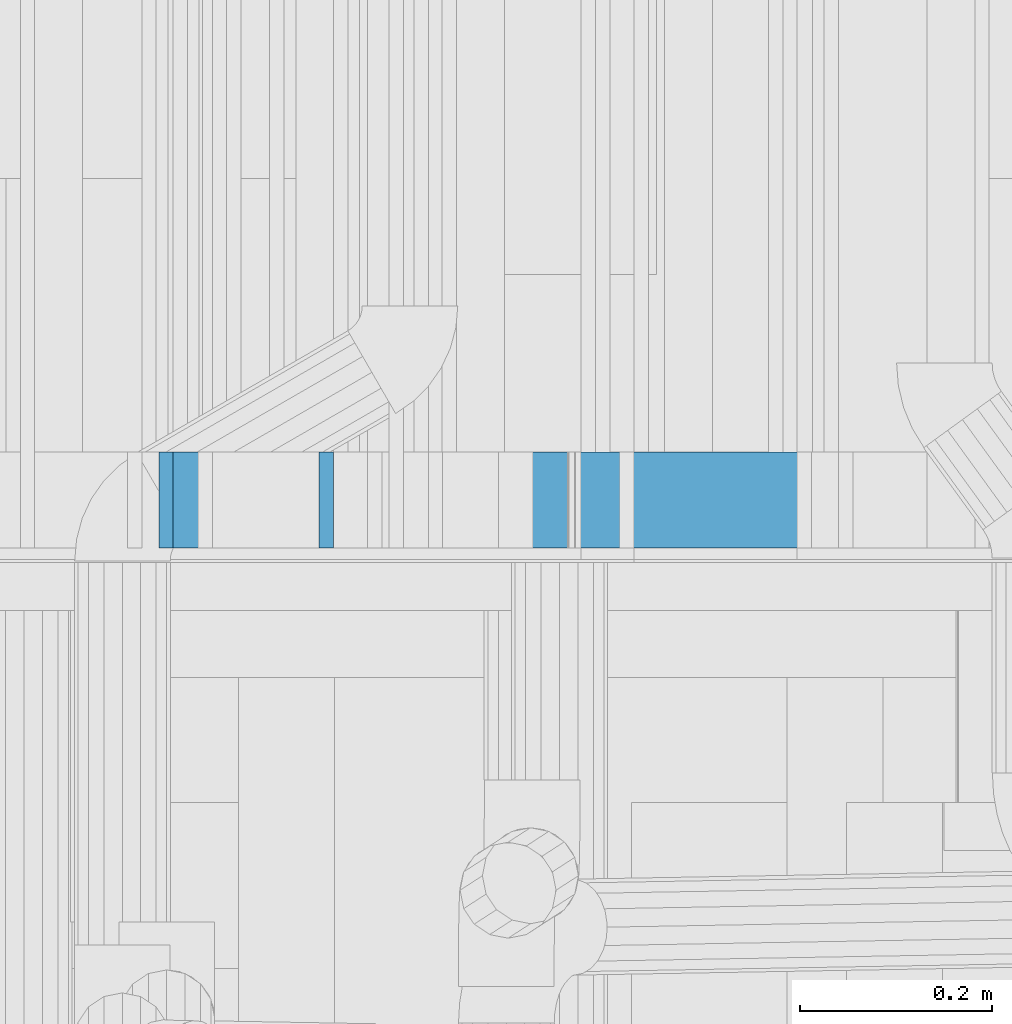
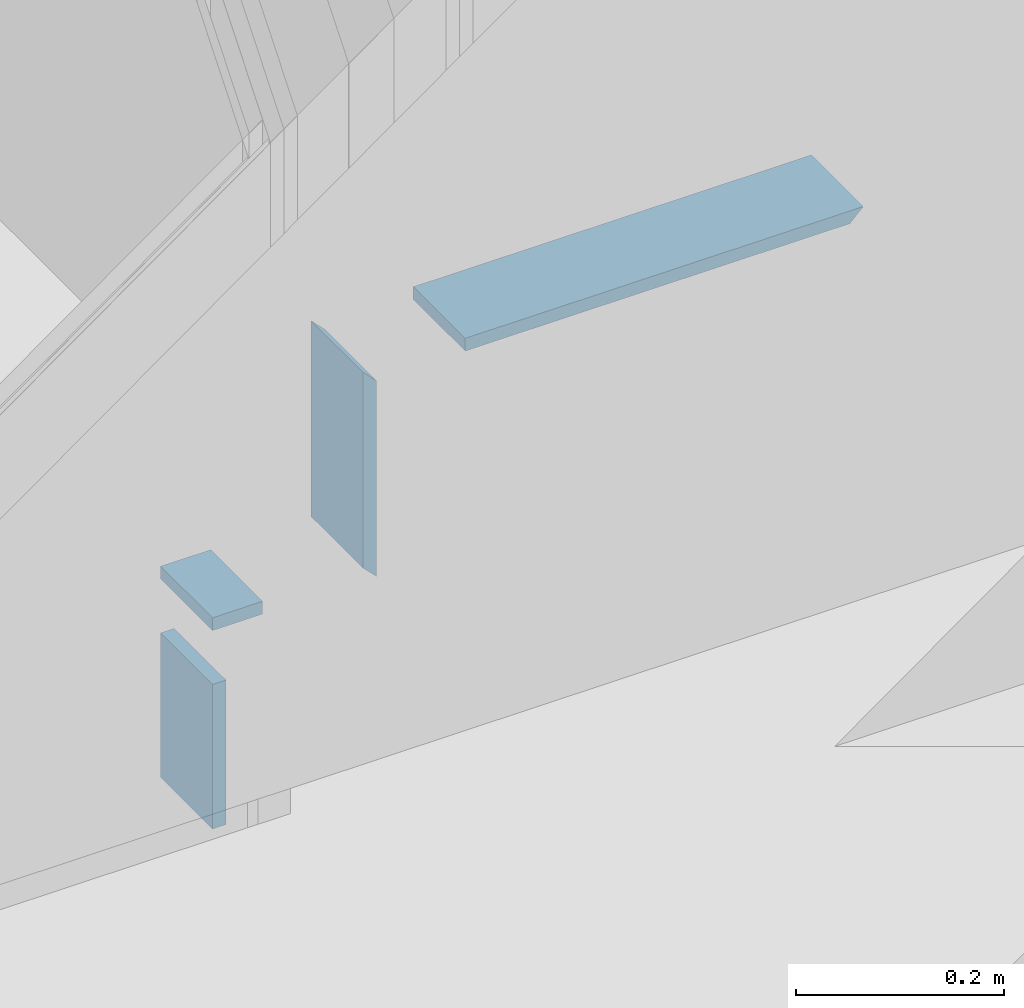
# One storey, part 185 of 583: 4 building element parts, 4 elements without a shape of their own.
"""IFC2X3 building model written with IfcOpenShell, lengths in metres."""

from ifc_helpers import new_model, entity, si_unit, converted_unit, derived_unit, money_unit, direction, frame, frame_2d, origin_with_axes, place, context, subcontext, project, spatial, polyline, rectangle, outline, extrude, material, type_object, element, aggregate, save


model = new_model("IFC2X3")

# Units and contexts
model_context = context("Model", 3, precision=1e-05, world=origin_with_axes(), true_north=direction((0.0, 1.0)))
body_context = subcontext(model_context, "Body", "Model", "MODEL_VIEW", scale=1.0)
ifc_project = project(units=[si_unit("LENGTHUNIT", "METRE"), si_unit("AREAUNIT", "SQUARE_METRE"), si_unit("VOLUMEUNIT", "CUBIC_METRE"), si_unit("ABSORBEDDOSEUNIT", "GRAY"), si_unit("AMOUNTOFSUBSTANCEUNIT", "MOLE"), si_unit("DOSEEQUIVALENTUNIT", "SIEVERT"), si_unit("ELECTRICCAPACITANCEUNIT", "FARAD"), si_unit("ELECTRICCHARGEUNIT", "COULOMB"), si_unit("ELECTRICCONDUCTANCEUNIT", "SIEMENS"), si_unit("ELECTRICCURRENTUNIT", "AMPERE"), si_unit("ELECTRICRESISTANCEUNIT", "OHM"), si_unit("ELECTRICVOLTAGEUNIT", "VOLT"), si_unit("ENERGYUNIT", "JOULE"), si_unit("FORCEUNIT", "NEWTON"), si_unit("FREQUENCYUNIT", "HERTZ"), si_unit("ILLUMINANCEUNIT", "LUX"), si_unit("INDUCTANCEUNIT", "HENRY"), si_unit("LUMINOUSFLUXUNIT", "LUMEN"), si_unit("LUMINOUSINTENSITYUNIT", "CANDELA"), si_unit("MAGNETICFLUXDENSITYUNIT", "TESLA"), si_unit("MAGNETICFLUXUNIT", "WEBER"), si_unit("MASSUNIT", "GRAM"), converted_unit("PLANEANGLEUNIT", "degree", entity("IfcReal", 0.0174532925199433), si_unit("PLANEANGLEUNIT", "RADIAN"), dimensions=[0, 0, 0, 0, 0, 0, 0]), si_unit("POWERUNIT", "WATT"), si_unit("PRESSUREUNIT", "PASCAL"), si_unit("RADIOACTIVITYUNIT", "BECQUEREL"), si_unit("SOLIDANGLEUNIT", "STERADIAN"), si_unit("THERMODYNAMICTEMPERATUREUNIT", "KELVIN"), si_unit("TIMEUNIT", "SECOND"), derived_unit("ACCELERATIONUNIT", [(si_unit("LENGTHUNIT", "METRE"), 1), (si_unit("TIMEUNIT", "SECOND"), -2)]), derived_unit("ANGULARVELOCITYUNIT", [(converted_unit("PLANEANGLEUNIT", "degree", entity("IfcReal", 0.0174532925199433), si_unit("PLANEANGLEUNIT", "RADIAN"), dimensions=[0, 0, 0, 0, 0, 0, 0]), 1), (si_unit("TIMEUNIT", "SECOND"), -1)]), derived_unit("CURVATUREUNIT", [(converted_unit("PLANEANGLEUNIT", "degree", entity("IfcReal", 0.0174532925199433), si_unit("PLANEANGLEUNIT", "RADIAN"), dimensions=[0, 0, 0, 0, 0, 0, 0]), 1), (si_unit("LENGTHUNIT", "METRE"), -1)]), derived_unit("DYNAMICVISCOSITYUNIT", [(si_unit("PRESSUREUNIT", "PASCAL"), 1), (si_unit("TIMEUNIT", "SECOND"), 1)]), derived_unit("HEATFLUXDENSITYUNIT", [(si_unit("POWERUNIT", "WATT"), 1), (si_unit("LENGTHUNIT", "METRE"), -2)]), derived_unit("HEATINGVALUEUNIT", [(si_unit("ENERGYUNIT", "JOULE"), 1), (si_unit("MASSUNIT", "GRAM"), -1)]), derived_unit("INTEGERCOUNTRATEUNIT", [(si_unit("TIMEUNIT", "SECOND"), -1)]), derived_unit("IONCONCENTRATIONUNIT", [(si_unit("MASSUNIT", "GRAM"), 1), (si_unit("VOLUMEUNIT", "CUBIC_METRE"), -1)]), derived_unit("ISOTHERMALMOISTURECAPACITYUNIT", [(si_unit("VOLUMEUNIT", "CUBIC_METRE"), 1), (si_unit("MASSUNIT", "GRAM"), -1)]), derived_unit("KINEMATICVISCOSITYUNIT", [(si_unit("AREAUNIT", "SQUARE_METRE"), 1), (si_unit("TIMEUNIT", "SECOND"), -1)]), derived_unit("LINEARFORCEUNIT", [(si_unit("FORCEUNIT", "NEWTON"), 1), (si_unit("LENGTHUNIT", "METRE"), -1)]), derived_unit("LINEARMOMENTUNIT", [(si_unit("FORCEUNIT", "NEWTON"), 1), (si_unit("LENGTHUNIT", "METRE"), -1)]), derived_unit("LINEARSTIFFNESSUNIT", [(si_unit("FORCEUNIT", "NEWTON"), 1), (si_unit("LENGTHUNIT", "METRE"), -1)]), derived_unit("LINEARVELOCITYUNIT", [(si_unit("LENGTHUNIT", "METRE"), 1), (si_unit("TIMEUNIT", "SECOND"), -1)]), derived_unit("LUMINOUSINTENSITYDISTRIBUTIONUNIT", [(si_unit("LUMINOUSINTENSITYUNIT", "CANDELA"), 1), (si_unit("LUMINOUSFLUXUNIT", "LUMEN"), -1)]), derived_unit("MASSDENSITYUNIT", [(si_unit("MASSUNIT", "GRAM"), 1), (si_unit("VOLUMEUNIT", "CUBIC_METRE"), -1)]), derived_unit("MASSFLOWRATEUNIT", [(si_unit("MASSUNIT", "GRAM"), 1), (si_unit("TIMEUNIT", "SECOND"), -1)]), derived_unit("MASSPERLENGTHUNIT", [(si_unit("MASSUNIT", "GRAM"), 1), (si_unit("LENGTHUNIT", "METRE"), -1)]), derived_unit("MODULUSOFELASTICITYUNIT", [(si_unit("FORCEUNIT", "NEWTON"), 1), (si_unit("AREAUNIT", "SQUARE_METRE"), -1)]), derived_unit("MODULUSOFLINEARSUBGRADEREACTIONUNIT", [(si_unit("FORCEUNIT", "NEWTON"), 1), (si_unit("LENGTHUNIT", "METRE"), -2)]), derived_unit("MODULUSOFROTATIONALSUBGRADEREACTIONUNIT", [(si_unit("FORCEUNIT", "NEWTON"), 1), (si_unit("LENGTHUNIT", "METRE"), 1)]), derived_unit("MODULUSOFSUBGRADEREACTIONUNIT", [(si_unit("FORCEUNIT", "NEWTON"), 1), (si_unit("VOLUMEUNIT", "CUBIC_METRE"), -1)]), derived_unit("MOISTUREDIFFUSIVITYUNIT", [(si_unit("VOLUMEUNIT", "CUBIC_METRE"), 1), (si_unit("TIMEUNIT", "SECOND"), -1)]), derived_unit("MOLECULARWEIGHTUNIT", [(si_unit("MASSUNIT", "GRAM"), 1), (si_unit("AMOUNTOFSUBSTANCEUNIT", "MOLE"), -1)]), derived_unit("PLANARFORCEUNIT", [(si_unit("FORCEUNIT", "NEWTON"), 1), (si_unit("LENGTHUNIT", "METRE"), -2)]), derived_unit("ROTATIONALFREQUENCYUNIT", [(si_unit("TIMEUNIT", "SECOND"), -1)]), derived_unit("ROTATIONALMASSUNIT", [(si_unit("MASSUNIT", "GRAM"), 1), (si_unit("LENGTHUNIT", "METRE"), 2)]), derived_unit("ROTATIONALSTIFFNESSUNIT", [(si_unit("FORCEUNIT", "NEWTON"), 1), (si_unit("LENGTHUNIT", "METRE"), 1), (converted_unit("PLANEANGLEUNIT", "degree", entity("IfcReal", 0.0174532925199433), si_unit("PLANEANGLEUNIT", "RADIAN"), dimensions=[0, 0, 0, 0, 0, 0, 0]), -1)]), derived_unit("SECTIONAREAINTEGRALUNIT", [(si_unit("LENGTHUNIT", "METRE"), 5)]), derived_unit("SECTIONMODULUSUNIT", [(si_unit("LENGTHUNIT", "METRE"), 3)]), derived_unit("SHEARMODULUSUNIT", [(si_unit("FORCEUNIT", "NEWTON"), 1), (si_unit("AREAUNIT", "SQUARE_METRE"), -1)]), derived_unit("SOUNDPOWERUNIT", [(si_unit("ENERGYUNIT", "JOULE"), 1), (si_unit("TIMEUNIT", "SECOND"), -1)]), derived_unit("SPECIFICHEATCAPACITYUNIT", [(si_unit("FORCEUNIT", "NEWTON"), 1), (si_unit("MASSUNIT", "GRAM"), -1), (si_unit("THERMODYNAMICTEMPERATUREUNIT", "KELVIN"), -1)]), derived_unit("TEMPERATUREGRADIENTUNIT", [(si_unit("THERMODYNAMICTEMPERATUREUNIT", "KELVIN"), 1), (si_unit("LENGTHUNIT", "METRE"), -1)]), derived_unit("THERMALADMITTANCEUNIT", [(si_unit("POWERUNIT", "WATT"), 1), (si_unit("AREAUNIT", "SQUARE_METRE"), -1), (si_unit("THERMODYNAMICTEMPERATUREUNIT", "KELVIN"), -1)]), derived_unit("THERMALCONDUCTANCEUNIT", [(si_unit("POWERUNIT", "WATT"), 1), (si_unit("LENGTHUNIT", "METRE"), -1), (si_unit("THERMODYNAMICTEMPERATUREUNIT", "KELVIN"), -1)]), derived_unit("THERMALEXPANSIONCOEFFICIENTUNIT", [(si_unit("THERMODYNAMICTEMPERATUREUNIT", "KELVIN"), -1)]), derived_unit("THERMALRESISTANCEUNIT", [(si_unit("AREAUNIT", "SQUARE_METRE"), 1), (si_unit("POWERUNIT", "WATT"), -1)]), derived_unit("THERMALTRANSMITTANCEUNIT", [(si_unit("POWERUNIT", "WATT"), 1), (si_unit("AREAUNIT", "SQUARE_METRE"), -1), (si_unit("THERMODYNAMICTEMPERATUREUNIT", "KELVIN"), -1)]), derived_unit("TORQUEUNIT", [(si_unit("FORCEUNIT", "NEWTON"), 1), (si_unit("LENGTHUNIT", "METRE"), 1)]), derived_unit("VAPORPERMEABILITYUNIT", [(si_unit("MASSUNIT", "GRAM"), 1), (si_unit("TIMEUNIT", "SECOND"), -1)]), derived_unit("VOLUMETRICFLOWRATEUNIT", [(si_unit("VOLUMEUNIT", "CUBIC_METRE"), 1), (si_unit("TIMEUNIT", "SECOND"), -1)]), derived_unit("WARPINGCONSTANTUNIT", [(si_unit("LENGTHUNIT", "METRE"), 6)]), derived_unit("WARPINGMOMENTUNIT", [(si_unit("FORCEUNIT", "NEWTON"), 1), (si_unit("LENGTHUNIT", "METRE"), 2)]), money_unit("GBP")], contexts=[model_context])

# Site, building, storey
site_placement = place(None, origin_with_axes())
site = spatial("IfcSite", under=ifc_project, at=site_placement, Name="Site", CompositionType="ELEMENT")
building_placement = place(site_placement, origin_with_axes())
building = spatial("IfcBuilding", under=site, at=building_placement, Name="Building01", CompositionType="ELEMENT")
storey_placement = place(building_placement, frame((0.0, 0.0, 20.78), z_axis=(0.0, 0.0, 1.0), x_axis=(1.0, 0.0, 0.0)))
storey = spatial("IfcBuildingStorey", under=building, at=storey_placement, Name="RL", CompositionType="ELEMENT", Elevation=20.78)

# Wall, building element part
wall_type = type_object("IfcWallType", Name="SHE_A-Walls_Type06f_ExternalWallInsulation_48+15mm", PredefinedType="NOTDEFINED")
wall_1_placement = place(storey_placement, frame((8.818, 5.15, -20.262), z_axis=(0.0, 1.0, 0.0), x_axis=(-1.0, 0.0, 0.0)))
wall_1 = element("IfcWall", 1, at=wall_1_placement, inside=storey, type_object=wall_type, Name="6F", ObjectType="SHE_A-Walls_Type06f_ExternalWallInsulation_48+15mm")
ifc_material = material(Name="A_BSUK_Walls_Timber")
building_element_part_1_placement = place(wall_1_placement, origin_with_axes())
building_element_part_1 = element("IfcBuildingElementPart", 2, at=building_element_part_1_placement, material=ifc_material, Name="2", context=body_context, shape_type="SweptSolid", body=[
    extrude(outline(polyline([(0.38233, 0.06), (-0.06, 0.06), (-0.045, 0.045), (0.38233, 0.045), (0.38233, 0.06)])), frame((0.0, 0.0, 0.015), z_axis=(0.0, 0.0, 1.0), x_axis=(1.0, 0.0, 0.0)), (0.0, 0.0, 1.0), 0.1),
])
aggregate(wall_1, [building_element_part_1])

wall_2_placement = place(storey_placement, frame((8.382, 5.15, -20.262), z_axis=(0.0, 1.0, 0.0), x_axis=(0.0, 0.0, -1.0)))
wall_2 = element("IfcWall", 3, at=wall_2_placement, inside=storey, type_object=wall_type, Name="6F", ObjectType="SHE_A-Walls_Type06f_ExternalWallInsulation_48+15mm")
building_element_part_2_placement = place(wall_2_placement, origin_with_axes())
building_element_part_2 = element("IfcBuildingElementPart", 4, at=building_element_part_2_placement, material=ifc_material, Name="2", context=body_context, shape_type="SweptSolid", body=[
    extrude(outline(polyline([(0.17, 0.06), (-0.06, 0.06), (-0.045, 0.045), (0.185, 0.045), (0.17, 0.06)])), frame((0.0, 0.0, 0.015), z_axis=(0.0, 0.0, 1.0), x_axis=(1.0, 0.0, 0.0)), (0.0, 0.0, 1.0), 0.1),
])
aggregate(wall_2, [building_element_part_2])

wall_3_placement = place(storey_placement, frame((8.382, 5.15, -20.492), z_axis=(0.0, 1.0, 0.0), x_axis=(-1.0, 0.0, 0.0)))
wall_3 = element("IfcWall", 5, at=wall_3_placement, inside=storey, type_object=wall_type, Name="6F", ObjectType="SHE_A-Walls_Type06f_ExternalWallInsulation_48+15mm")
building_element_part_3_placement = place(wall_3_placement, origin_with_axes())
building_element_part_3 = element("IfcBuildingElementPart", 6, at=building_element_part_3_placement, material=ifc_material, Name="2", context=body_context, shape_type="SweptSolid", body=[
    extrude(rectangle(XDim=0.05567, YDim=0.015, at=frame_2d((0.199165, 0.0525), x_axis=(-1.0, 0.0))), frame((0.0, 0.0, 0.015), z_axis=(0.0, 0.0, 1.0), x_axis=(1.0, 0.0, 0.0)), (0.0, 0.0, 1.0), 0.1),
])
aggregate(wall_3, [building_element_part_3])

wall_4_placement = place(storey_placement, frame((8.215, 5.15, -20.492), z_axis=(0.0, 1.0, 0.0), x_axis=(0.0, 0.0, -1.0)))
wall_4 = element("IfcWall", 7, at=wall_4_placement, inside=storey, type_object=wall_type, Name="6F", ObjectType="SHE_A-Walls_Type06f_ExternalWallInsulation_48+15mm")
building_element_part_4_placement = place(wall_4_placement, origin_with_axes())
building_element_part_4 = element("IfcBuildingElementPart", 8, at=building_element_part_4_placement, material=ifc_material, Name="2", context=body_context, shape_type="SweptSolid", body=[
    extrude(rectangle(XDim=0.169744, YDim=0.015, at=frame_2d((0.103128, 0.0525), x_axis=(1.0, 0.0))), frame((0.0, 0.0, 0.015), z_axis=(0.0, 0.0, 1.0), x_axis=(1.0, 0.0, 0.0)), (0.0, 0.0, 1.0), 0.1),
])
aggregate(wall_4, [building_element_part_4])

save(model, "model.ifc")
